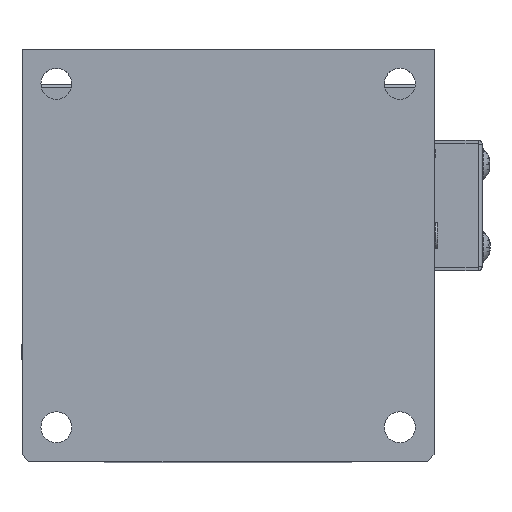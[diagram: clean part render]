
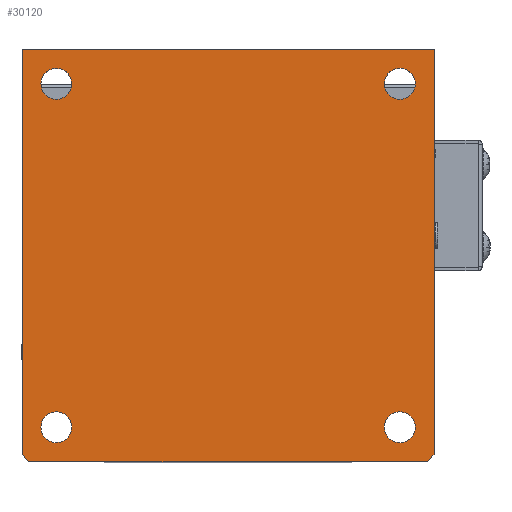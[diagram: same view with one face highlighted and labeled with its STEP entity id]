
A CAD part, top view. The second image highlights one B-rep face of the part: STEP entity #30120.
In plain terms, the highlighted planar face has unit normal (0, 0, 1) as drawn and (0, 0, -1) by its records, which use the part's own axes.
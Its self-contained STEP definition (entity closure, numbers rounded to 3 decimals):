
#601 = FACE_BOUND ( 'NONE', #57392, .T. ) ;
#1404 = ORIENTED_EDGE ( 'NONE', *, *, #62307, .T. ) ;
#1444 = CARTESIAN_POINT ( 'NONE',  ( -27.25, 25., -5. ) ) ;
#1648 = VERTEX_POINT ( 'NONE', #47684 ) ;
#1674 = CIRCLE ( 'NONE', #59817, 2.25 ) ;
#2975 = EDGE_CURVE ( 'NONE', #26209, #60771, #35817, .T. ) ;
#3864 = CARTESIAN_POINT ( 'NONE',  ( -30., -30., -5. ) ) ;
#4105 = DIRECTION ( 'NONE',  ( 0., 0., 1. ) ) ;
#4955 = ORIENTED_EDGE ( 'NONE', *, *, #2975, .T. ) ;
#5030 = CARTESIAN_POINT ( 'NONE',  ( -30., 29., -5. ) ) ;
#5344 = ORIENTED_EDGE ( 'NONE', *, *, #47948, .F. ) ;
#5883 = DIRECTION ( 'NONE',  ( 1., 0., 0. ) ) ;
#6081 = CIRCLE ( 'NONE', #14682, 2.25 ) ;
#6193 = VECTOR ( 'NONE', #7251, 1000. ) ;
#6874 = CARTESIAN_POINT ( 'NONE',  ( -25., -25., -5. ) ) ;
#6963 = EDGE_CURVE ( 'NONE', #51486, #26339, #29429, .T. ) ;
#7251 = DIRECTION ( 'NONE',  ( 0., 1., 0. ) ) ;
#10523 = DIRECTION ( 'NONE',  ( 0., 0., 1. ) ) ;
#10622 = AXIS2_PLACEMENT_3D ( 'NONE', #49863, #28939, #22593 ) ;
#11232 = DIRECTION ( 'NONE',  ( 1., 0., 0. ) ) ;
#11394 = DIRECTION ( 'NONE',  ( 0., 0., 1. ) ) ;
#11527 = DIRECTION ( 'NONE',  ( 1., 0., 0. ) ) ;
#11562 = DIRECTION ( 'NONE',  ( 0., 0., 1. ) ) ;
#11914 = CARTESIAN_POINT ( 'NONE',  ( -30., 30., -5. ) ) ;
#12066 = VERTEX_POINT ( 'NONE', #21494 ) ;
#13559 = CARTESIAN_POINT ( 'NONE',  ( -29., 30., -5. ) ) ;
#13980 = LINE ( 'NONE', #3864, #64092 ) ;
#14084 = CARTESIAN_POINT ( 'NONE',  ( 25., 25., -5. ) ) ;
#14225 = DIRECTION ( 'NONE',  ( 1., 0., 0. ) ) ;
#14682 = AXIS2_PLACEMENT_3D ( 'NONE', #49993, #24360, #44940 ) ;
#15802 = CARTESIAN_POINT ( 'NONE',  ( -30., -30., -5. ) ) ;
#16078 = CIRCLE ( 'NONE', #25755, 2.25 ) ;
#16437 = PLANE ( 'NONE',  #59941 ) ;
#17249 = CARTESIAN_POINT ( 'NONE',  ( -22.75, 25., -5. ) ) ;
#18686 = LINE ( 'NONE', #53765, #6193 ) ;
#18769 = ORIENTED_EDGE ( 'NONE', *, *, #37323, .T. ) ;
#21327 = CARTESIAN_POINT ( 'NONE',  ( 25., 25., -5. ) ) ;
#21494 = CARTESIAN_POINT ( 'NONE',  ( 22.75, 25., -5. ) ) ;
#22593 = DIRECTION ( 'NONE',  ( 1., 0., 0. ) ) ;
#23731 = DIRECTION ( 'NONE',  ( 0., -1., 0. ) ) ;
#24066 = EDGE_CURVE ( 'NONE', #51486, #37281, #62048, .T. ) ;
#24360 = DIRECTION ( 'NONE',  ( 0., 0., 1. ) ) ;
#25593 = ORIENTED_EDGE ( 'NONE', *, *, #28839, .T. ) ;
#25755 = AXIS2_PLACEMENT_3D ( 'NONE', #57749, #11562, #11232 ) ;
#26087 = AXIS2_PLACEMENT_3D ( 'NONE', #44921, #54118, #14225 ) ;
#26209 = VERTEX_POINT ( 'NONE', #29942 ) ;
#26339 = VERTEX_POINT ( 'NONE', #15802 ) ;
#26557 = DIRECTION ( 'NONE',  ( 1., 0., 0. ) ) ;
#27437 = DIRECTION ( 'NONE',  ( 0., 0., 1. ) ) ;
#28620 = CARTESIAN_POINT ( 'NONE',  ( 29., 30., -5. ) ) ;
#28839 = EDGE_CURVE ( 'NONE', #12066, #34504, #54849, .T. ) ;
#28939 = DIRECTION ( 'NONE',  ( 0., 0., 1. ) ) ;
#28991 = DIRECTION ( 'NONE',  ( 0.707, -0.707, 0. ) ) ;
#29429 = LINE ( 'NONE', #49039, #52408 ) ;
#29942 = CARTESIAN_POINT ( 'NONE',  ( -27.25, -25., -5. ) ) ;
#30106 = AXIS2_PLACEMENT_3D ( 'NONE', #14084, #60292, #34643 ) ;
#30120 = ADVANCED_FACE ( 'NONE', ( #57915, #37008, #57588, #601, #36672 ), #16437, .F. ) ;
#30189 = AXIS2_PLACEMENT_3D ( 'NONE', #55686, #4105, #55027 ) ;
#31319 = DIRECTION ( 'NONE',  ( 0.707, 0.707, 0. ) ) ;
#32394 = ORIENTED_EDGE ( 'NONE', *, *, #63785, .T. ) ;
#32484 = ORIENTED_EDGE ( 'NONE', *, *, #38828, .T. ) ;
#33465 = ORIENTED_EDGE ( 'NONE', *, *, #66459, .T. ) ;
#33647 = ORIENTED_EDGE ( 'NONE', *, *, #59016, .F. ) ;
#33772 = DIRECTION ( 'NONE',  ( -1., 0., 0. ) ) ;
#34504 = VERTEX_POINT ( 'NONE', #66261 ) ;
#34643 = DIRECTION ( 'NONE',  ( 1., 0., 0. ) ) ;
#34792 = VERTEX_POINT ( 'NONE', #28620 ) ;
#35451 = ORIENTED_EDGE ( 'NONE', *, *, #47532, .F. ) ;
#35817 = CIRCLE ( 'NONE', #50870, 2.25 ) ;
#36450 = VECTOR ( 'NONE', #31319, 1000. ) ;
#36672 = FACE_BOUND ( 'NONE', #63136, .T. ) ;
#37008 = FACE_BOUND ( 'NONE', #64118, .T. ) ;
#37281 = VERTEX_POINT ( 'NONE', #13559 ) ;
#37323 = EDGE_CURVE ( 'NONE', #60771, #26209, #57130, .T. ) ;
#37520 = LINE ( 'NONE', #11914, #48263 ) ;
#37643 = EDGE_LOOP ( 'NONE', ( #5344, #32484, #35451, #33647, #44573, #60376 ) ) ;
#38796 = VERTEX_POINT ( 'NONE', #17249 ) ;
#38828 = EDGE_CURVE ( 'NONE', #34792, #63654, #55292, .T. ) ;
#39458 = CARTESIAN_POINT ( 'NONE',  ( 29., 30., -5. ) ) ;
#43004 = CARTESIAN_POINT ( 'NONE',  ( -22.75, -25., -5. ) ) ;
#43817 = CARTESIAN_POINT ( 'NONE',  ( -30., 29., -5. ) ) ;
#44057 = VERTEX_POINT ( 'NONE', #50279 ) ;
#44365 = EDGE_LOOP ( 'NONE', ( #66789, #33465 ) ) ;
#44381 = CIRCLE ( 'NONE', #26087, 2.25 ) ;
#44573 = ORIENTED_EDGE ( 'NONE', *, *, #6963, .F. ) ;
#44921 = CARTESIAN_POINT ( 'NONE',  ( 25., -25., -5. ) ) ;
#44940 = DIRECTION ( 'NONE',  ( 1., 0., 0. ) ) ;
#47532 = EDGE_CURVE ( 'NONE', #1648, #63654, #18686, .T. ) ;
#47684 = CARTESIAN_POINT ( 'NONE',  ( 30., -30., -5. ) ) ;
#47948 = EDGE_CURVE ( 'NONE', #34792, #37281, #37520, .T. ) ;
#48263 = VECTOR ( 'NONE', #33772, 1000. ) ;
#49039 = CARTESIAN_POINT ( 'NONE',  ( -30., 30., -5. ) ) ;
#49863 = CARTESIAN_POINT ( 'NONE',  ( -25., 25., -5. ) ) ;
#49993 = CARTESIAN_POINT ( 'NONE',  ( -25., 25., -5. ) ) ;
#50279 = CARTESIAN_POINT ( 'NONE',  ( 22.75, -25., -5. ) ) ;
#50699 = VECTOR ( 'NONE', #28991, 1000. ) ;
#50870 = AXIS2_PLACEMENT_3D ( 'NONE', #6874, #27437, #5883 ) ;
#51486 = VERTEX_POINT ( 'NONE', #43817 ) ;
#52408 = VECTOR ( 'NONE', #23731, 1000. ) ;
#52744 = CARTESIAN_POINT ( 'NONE',  ( 30., 29., -5. ) ) ;
#53765 = CARTESIAN_POINT ( 'NONE',  ( 30., 30., -5. ) ) ;
#54118 = DIRECTION ( 'NONE',  ( 0., 0., 1. ) ) ;
#54785 = EDGE_CURVE ( 'NONE', #60413, #44057, #44381, .T. ) ;
#54849 = CIRCLE ( 'NONE', #30106, 2.25 ) ;
#55027 = DIRECTION ( 'NONE',  ( 1., 0., 0. ) ) ;
#55292 = LINE ( 'NONE', #39458, #50699 ) ;
#55361 = ORIENTED_EDGE ( 'NONE', *, *, #59527, .T. ) ;
#55686 = CARTESIAN_POINT ( 'NONE',  ( -25., -25., -5. ) ) ;
#57130 = CIRCLE ( 'NONE', #30189, 2.25 ) ;
#57251 = CARTESIAN_POINT ( 'NONE',  ( 0., 0., -5. ) ) ;
#57392 = EDGE_LOOP ( 'NONE', ( #32394, #1404 ) ) ;
#57588 = FACE_OUTER_BOUND ( 'NONE', #37643, .T. ) ;
#57749 = CARTESIAN_POINT ( 'NONE',  ( 25., -25., -5. ) ) ;
#57915 = FACE_BOUND ( 'NONE', #44365, .T. ) ;
#59016 = EDGE_CURVE ( 'NONE', #26339, #1648, #13980, .T. ) ;
#59527 = EDGE_CURVE ( 'NONE', #34504, #12066, #1674, .T. ) ;
#59817 = AXIS2_PLACEMENT_3D ( 'NONE', #21327, #10523, #11527 ) ;
#59941 = AXIS2_PLACEMENT_3D ( 'NONE', #57251, #11394, #26557 ) ;
#60292 = DIRECTION ( 'NONE',  ( 0., 0., 1. ) ) ;
#60376 = ORIENTED_EDGE ( 'NONE', *, *, #24066, .T. ) ;
#60413 = VERTEX_POINT ( 'NONE', #65224 ) ;
#60771 = VERTEX_POINT ( 'NONE', #43004 ) ;
#62048 = LINE ( 'NONE', #5030, #36450 ) ;
#62307 = EDGE_CURVE ( 'NONE', #66463, #38796, #64467, .T. ) ;
#63136 = EDGE_LOOP ( 'NONE', ( #55361, #25593 ) ) ;
#63654 = VERTEX_POINT ( 'NONE', #52744 ) ;
#63785 = EDGE_CURVE ( 'NONE', #38796, #66463, #6081, .T. ) ;
#64092 = VECTOR ( 'NONE', #65620, 1000. ) ;
#64118 = EDGE_LOOP ( 'NONE', ( #18769, #4955 ) ) ;
#64467 = CIRCLE ( 'NONE', #10622, 2.25 ) ;
#65224 = CARTESIAN_POINT ( 'NONE',  ( 27.25, -25., -5. ) ) ;
#65620 = DIRECTION ( 'NONE',  ( 1., 0., 0. ) ) ;
#66261 = CARTESIAN_POINT ( 'NONE',  ( 27.25, 25., -5. ) ) ;
#66459 = EDGE_CURVE ( 'NONE', #44057, #60413, #16078, .T. ) ;
#66463 = VERTEX_POINT ( 'NONE', #1444 ) ;
#66789 = ORIENTED_EDGE ( 'NONE', *, *, #54785, .T. ) ;
